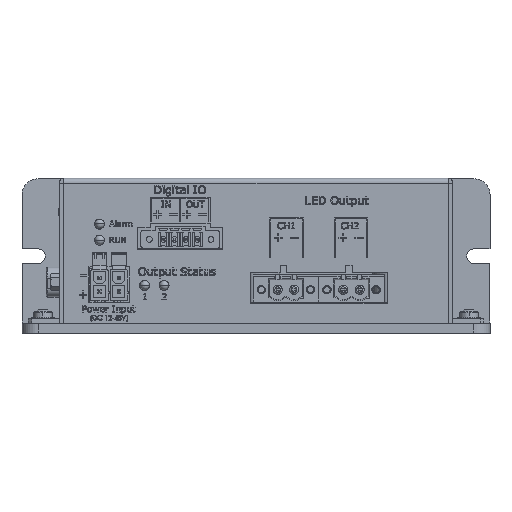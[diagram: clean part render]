
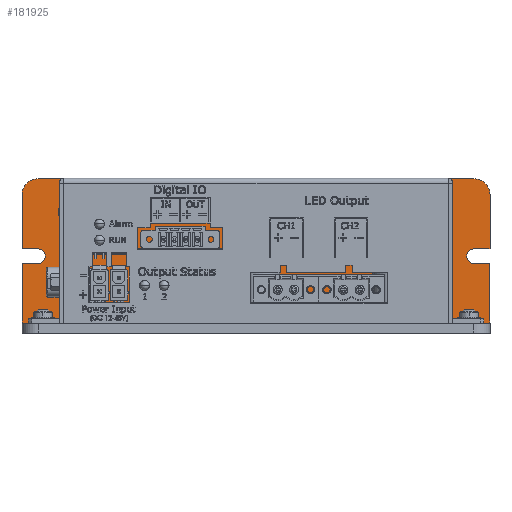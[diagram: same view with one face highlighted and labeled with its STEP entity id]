
A CAD part, top view. The second image highlights one B-rep face of the part: STEP entity #181925.
In plain terms, the highlighted planar face has unit normal (0, 0, 1).
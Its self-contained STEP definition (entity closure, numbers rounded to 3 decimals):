
#232 = CARTESIAN_POINT ( 'NONE',  ( -67.5, 40., -42. ) ) ;
#1374 = EDGE_CURVE ( 'NONE', #106210, #161516, #261334, .T. ) ;
#6940 = DIRECTION ( 'NONE',  ( 0., 0., 1. ) ) ;
#9598 = AXIS2_PLACEMENT_3D ( 'NONE', #213405, #119967, #76349 ) ;
#11895 = EDGE_CURVE ( 'NONE', #76089, #184902, #180805, .T. ) ;
#12251 = LINE ( 'NONE', #127952, #114195 ) ;
#15050 = EDGE_LOOP ( 'NONE', ( #175107, #35394, #244365, #121016, #66816, #150063, #239776, #217664, #168059, #56709, #201733, #167774, #133271, #36201, #253413 ) ) ;
#18321 = DIRECTION ( 'NONE',  ( -1., 0., 0. ) ) ;
#19039 = EDGE_CURVE ( 'NONE', #248209, #182003, #37861, .T. ) ;
#24200 = CARTESIAN_POINT ( 'NONE',  ( 67.5, 18.75, -42. ) ) ;
#24328 = EDGE_CURVE ( 'NONE', #76089, #28923, #133674, .T. ) ;
#25398 = EDGE_CURVE ( 'NONE', #171561, #248209, #229386, .T. ) ;
#25786 = AXIS2_PLACEMENT_3D ( 'NONE', #192022, #6940, #98684 ) ;
#26302 = DIRECTION ( 'NONE',  ( 1., 0., 0. ) ) ;
#28923 = VERTEX_POINT ( 'NONE', #269276 ) ;
#35394 = ORIENTED_EDGE ( 'NONE', *, *, #11895, .T. ) ;
#36201 = ORIENTED_EDGE ( 'NONE', *, *, #258650, .F. ) ;
#37861 = LINE ( 'NONE', #85990, #52238 ) ;
#42844 = AXIS2_PLACEMENT_3D ( 'NONE', #109084, #198032, #63949 ) ;
#52238 = VECTOR ( 'NONE', #18321, 1000. ) ;
#56709 = ORIENTED_EDGE ( 'NONE', *, *, #19039, .F. ) ;
#59058 = CARTESIAN_POINT ( 'NONE',  ( -72.5, 0., -42. ) ) ;
#61954 = CIRCLE ( 'NONE', #42844, 2.25 ) ;
#63949 = DIRECTION ( 'NONE',  ( 1., 0., 0. ) ) ;
#66527 = EDGE_CURVE ( 'NONE', #295329, #235569, #256554, .T. ) ;
#66816 = ORIENTED_EDGE ( 'NONE', *, *, #257814, .F. ) ;
#71091 = VERTEX_POINT ( 'NONE', #59058 ) ;
#71378 = LINE ( 'NONE', #252195, #148067 ) ;
#73329 = DIRECTION ( 'NONE',  ( -1., 0., 0. ) ) ;
#76089 = VERTEX_POINT ( 'NONE', #106059 ) ;
#76349 = DIRECTION ( 'NONE',  ( 0., -1., 0. ) ) ;
#78112 = CARTESIAN_POINT ( 'NONE',  ( -72.5, 45., -42. ) ) ;
#79943 = VECTOR ( 'NONE', #200108, 1000. ) ;
#82547 = DIRECTION ( 'NONE',  ( 0., 1., 0. ) ) ;
#85990 = CARTESIAN_POINT ( 'NONE',  ( -72.5, 23.25, -42. ) ) ;
#89596 = CARTESIAN_POINT ( 'NONE',  ( 72.5, 23.25, -42. ) ) ;
#95587 = VERTEX_POINT ( 'NONE', #240944 ) ;
#95916 = DIRECTION ( 'NONE',  ( -1., 0., 0. ) ) ;
#98684 = DIRECTION ( 'NONE',  ( 0., -1., 0. ) ) ;
#98904 = DIRECTION ( 'NONE',  ( 0., 0., 1. ) ) ;
#106059 = CARTESIAN_POINT ( 'NONE',  ( 72.5, 18.75, -42. ) ) ;
#106113 = CARTESIAN_POINT ( 'NONE',  ( -65.25, 21., -42. ) ) ;
#106210 = VERTEX_POINT ( 'NONE', #196057 ) ;
#109084 = CARTESIAN_POINT ( 'NONE',  ( 67.5, 21., -42. ) ) ;
#114195 = VECTOR ( 'NONE', #292112, 1000. ) ;
#116186 = CARTESIAN_POINT ( 'NONE',  ( -72.5, 45., -42. ) ) ;
#118312 = DIRECTION ( 'NONE',  ( 1., 0., 0. ) ) ;
#119967 = DIRECTION ( 'NONE',  ( 0., 0., 1. ) ) ;
#121016 = ORIENTED_EDGE ( 'NONE', *, *, #218077, .T. ) ;
#124561 = CIRCLE ( 'NONE', #235390, 5. ) ;
#127952 = CARTESIAN_POINT ( 'NONE',  ( 72.5, 0., -42. ) ) ;
#130206 = EDGE_CURVE ( 'NONE', #184902, #267247, #61954, .T. ) ;
#133271 = ORIENTED_EDGE ( 'NONE', *, *, #1374, .F. ) ;
#133674 = LINE ( 'NONE', #248282, #79943 ) ;
#142803 = AXIS2_PLACEMENT_3D ( 'NONE', #208347, #185748, #277670 ) ;
#145923 = DIRECTION ( 'NONE',  ( 0., -1., 0. ) ) ;
#146980 = PLANE ( 'NONE',  #9598 ) ;
#148067 = VECTOR ( 'NONE', #26302, 1000. ) ;
#150063 = ORIENTED_EDGE ( 'NONE', *, *, #66527, .T. ) ;
#151441 = VECTOR ( 'NONE', #82547, 1000. ) ;
#156850 = CARTESIAN_POINT ( 'NONE',  ( 67.5, 45., -42. ) ) ;
#159113 = EDGE_CURVE ( 'NONE', #262210, #95587, #124561, .T. ) ;
#161516 = VERTEX_POINT ( 'NONE', #205471 ) ;
#163975 = VECTOR ( 'NONE', #248581, 1000. ) ;
#165833 = VECTOR ( 'NONE', #118312, 1000. ) ;
#167774 = ORIENTED_EDGE ( 'NONE', *, *, #259922, .F. ) ;
#167892 = CARTESIAN_POINT ( 'NONE',  ( -67.5, 18.75, -42. ) ) ;
#168059 = ORIENTED_EDGE ( 'NONE', *, *, #194690, .F. ) ;
#168485 = DIRECTION ( 'NONE',  ( 0., 0., 1. ) ) ;
#171561 = VERTEX_POINT ( 'NONE', #106113 ) ;
#174066 = CARTESIAN_POINT ( 'NONE',  ( -72.5, 23.25, -42. ) ) ;
#175107 = ORIENTED_EDGE ( 'NONE', *, *, #24328, .F. ) ;
#175579 = LINE ( 'NONE', #217875, #199986 ) ;
#177078 = DIRECTION ( 'NONE',  ( 1., 0., 0. ) ) ;
#178452 = CARTESIAN_POINT ( 'NONE',  ( 67.5, 23.25, -42. ) ) ;
#180805 = LINE ( 'NONE', #24200, #163975 ) ;
#181925 = ADVANCED_FACE ( 'NONE', ( #187870 ), #146980, .T. ) ;
#182003 = VERTEX_POINT ( 'NONE', #174066 ) ;
#182077 = VECTOR ( 'NONE', #95916, 1000. ) ;
#184902 = VERTEX_POINT ( 'NONE', #194616 ) ;
#185748 = DIRECTION ( 'NONE',  ( 0., 0., 1. ) ) ;
#187870 = FACE_OUTER_BOUND ( 'NONE', #15050, .T. ) ;
#192022 = CARTESIAN_POINT ( 'NONE',  ( 67.5, 40., -42. ) ) ;
#194616 = CARTESIAN_POINT ( 'NONE',  ( 67.5, 18.75, -42. ) ) ;
#194690 = EDGE_CURVE ( 'NONE', #182003, #95587, #288853, .T. ) ;
#196057 = CARTESIAN_POINT ( 'NONE',  ( -72.5, 18.75, -42. ) ) ;
#198032 = DIRECTION ( 'NONE',  ( 0., 0., -1. ) ) ;
#199986 = VECTOR ( 'NONE', #177078, 1000. ) ;
#200108 = DIRECTION ( 'NONE',  ( 0., -1., 0. ) ) ;
#201438 = VERTEX_POINT ( 'NONE', #89596 ) ;
#201733 = ORIENTED_EDGE ( 'NONE', *, *, #25398, .F. ) ;
#202506 = EDGE_CURVE ( 'NONE', #28923, #71091, #284133, .T. ) ;
#205471 = CARTESIAN_POINT ( 'NONE',  ( -67.5, 18.75, -42. ) ) ;
#206602 = LINE ( 'NONE', #116186, #268550 ) ;
#208347 = CARTESIAN_POINT ( 'NONE',  ( -67.5, 21., -42. ) ) ;
#211032 = DIRECTION ( 'NONE',  ( 0., 1., 0. ) ) ;
#213405 = CARTESIAN_POINT ( 'NONE',  ( 0., 0., -42. ) ) ;
#217664 = ORIENTED_EDGE ( 'NONE', *, *, #159113, .T. ) ;
#217875 = CARTESIAN_POINT ( 'NONE',  ( 72.5, 23.25, -42. ) ) ;
#218077 = EDGE_CURVE ( 'NONE', #267247, #201438, #175579, .T. ) ;
#229386 = CIRCLE ( 'NONE', #142803, 2.25 ) ;
#229697 = CARTESIAN_POINT ( 'NONE',  ( -67.5, 23.25, -42. ) ) ;
#235390 = AXIS2_PLACEMENT_3D ( 'NONE', #232, #168485, #145923 ) ;
#235569 = VERTEX_POINT ( 'NONE', #156850 ) ;
#239776 = ORIENTED_EDGE ( 'NONE', *, *, #258214, .F. ) ;
#240910 = AXIS2_PLACEMENT_3D ( 'NONE', #279703, #98904, #73329 ) ;
#240944 = CARTESIAN_POINT ( 'NONE',  ( -72.5, 40., -42. ) ) ;
#244365 = ORIENTED_EDGE ( 'NONE', *, *, #130206, .T. ) ;
#248209 = VERTEX_POINT ( 'NONE', #229697 ) ;
#248282 = CARTESIAN_POINT ( 'NONE',  ( 72.5, 0., -42. ) ) ;
#248581 = DIRECTION ( 'NONE',  ( -1., 0., 0. ) ) ;
#252195 = CARTESIAN_POINT ( 'NONE',  ( 72.5, 45., -42. ) ) ;
#253413 = ORIENTED_EDGE ( 'NONE', *, *, #202506, .F. ) ;
#255246 = CIRCLE ( 'NONE', #240910, 2.25 ) ;
#256554 = CIRCLE ( 'NONE', #25786, 5. ) ;
#257814 = EDGE_CURVE ( 'NONE', #295329, #201438, #12251, .T. ) ;
#258214 = EDGE_CURVE ( 'NONE', #262210, #235569, #71378, .T. ) ;
#258650 = EDGE_CURVE ( 'NONE', #71091, #106210, #206602, .T. ) ;
#259922 = EDGE_CURVE ( 'NONE', #161516, #171561, #255246, .T. ) ;
#259979 = CARTESIAN_POINT ( 'NONE',  ( 72.5, 0., -42. ) ) ;
#261334 = LINE ( 'NONE', #167892, #165833 ) ;
#262041 = CARTESIAN_POINT ( 'NONE',  ( -67.5, 45., -42. ) ) ;
#262210 = VERTEX_POINT ( 'NONE', #262041 ) ;
#267247 = VERTEX_POINT ( 'NONE', #178452 ) ;
#268550 = VECTOR ( 'NONE', #211032, 1000. ) ;
#269276 = CARTESIAN_POINT ( 'NONE',  ( 72.5, 0., -42. ) ) ;
#277670 = DIRECTION ( 'NONE',  ( -1., 0., 0. ) ) ;
#279703 = CARTESIAN_POINT ( 'NONE',  ( -67.5, 21., -42. ) ) ;
#284133 = LINE ( 'NONE', #259979, #182077 ) ;
#288853 = LINE ( 'NONE', #78112, #151441 ) ;
#290742 = CARTESIAN_POINT ( 'NONE',  ( 72.5, 40., -42. ) ) ;
#292112 = DIRECTION ( 'NONE',  ( 0., -1., 0. ) ) ;
#295329 = VERTEX_POINT ( 'NONE', #290742 ) ;
